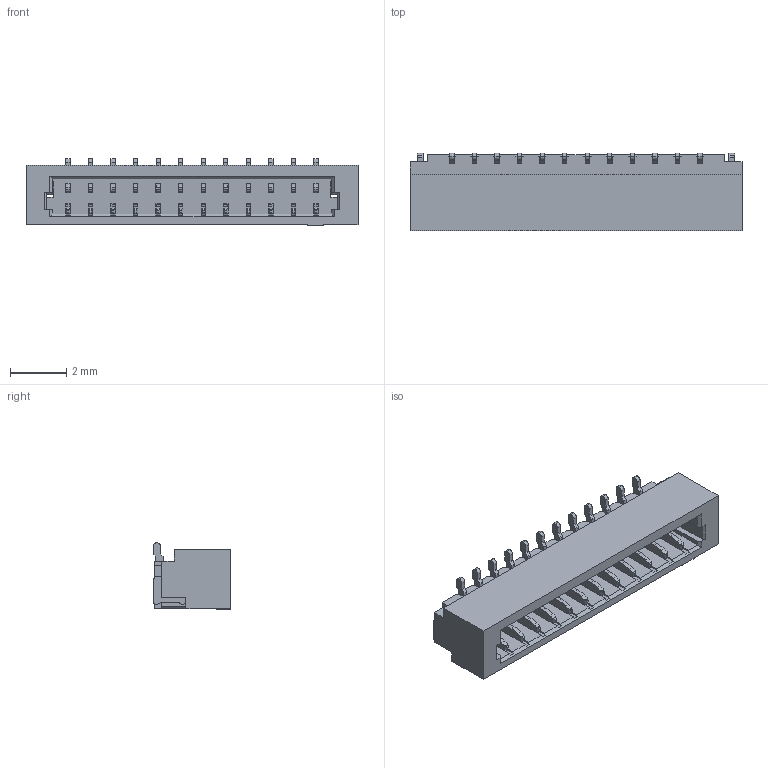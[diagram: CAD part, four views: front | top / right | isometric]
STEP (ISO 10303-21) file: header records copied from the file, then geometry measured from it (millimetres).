
FILE_DESCRIPTION((''),'2;1');
FILE_NAME('SCT0800WVS-12','2023-04-10T16:42:05',('Administrator'),(''),'CREO PARAMETRIC BY PTC INC, 2018050','CREO PARAMETRIC BY PTC INC, 2018050','');
FILE_SCHEMA(('CONFIG_CONTROL_DESIGN'));
Length unit declared in the file: millimetre
Products named in the file (1): SCT0800WVS-12
Bounding box: 11.78 x 2.75 x 2.37 mm (x, y, z)
Volume: 40.7 mm3; surface area: 246.6 mm2
Topology: 1 solids, 2 shells, 947 faces, 2986 edges, 1976 vertices
Faces by surface type: plane 599, cylinder 348
Entity records: 33279 total; most frequent: CARTESIAN_POINT 6084, ORIENTED_EDGE 5972, DIRECTION 5476, EDGE_CURVE 2986, VECTOR 2286, LINE 2286, VERTEX_POINT 1976, AXIS2_PLACEMENT_3D 1595
